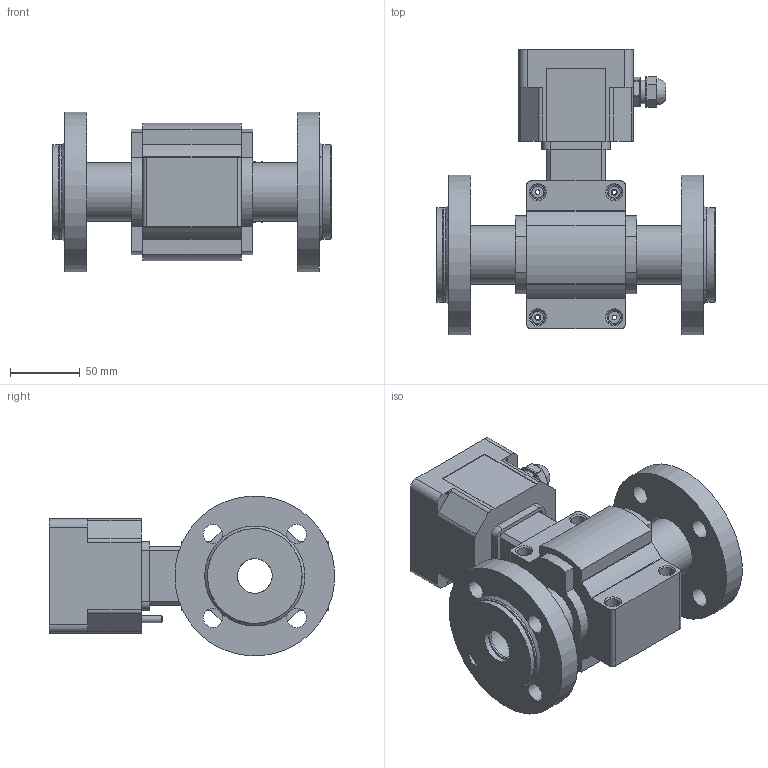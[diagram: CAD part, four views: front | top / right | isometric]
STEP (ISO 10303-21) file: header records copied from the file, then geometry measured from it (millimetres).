
FILE_DESCRIPTION(/* description */ (''),/* implementation_level */ '2;1');
FILE_NAME(/* name */ 'D:\ТЭК\01 Михайлычев\ПРЭМ\Модели для сайта\Квадратное исполение блока\100F\Workspaces\Рабочее пространство\25F\ПРЭМ-25F.stp',/* time_stamp */ '2022-06-21T11:32:39+03:00',/* author */ ('d.mihailichev'),/* organization */ (''),/* preprocessor_version */ 'ST-DEVELOPER v18.1',/* originating_system */ 'Autodesk Inventor 2020',/* authorisation */ '');
FILE_SCHEMA (('AUTOMOTIVE_DESIGN { 1 0 10303 214 3 1 1 }'));
Products named in the file (1): ПРЭМ-25F
Bounding box: 200 x 204.78 x 114.56 mm (x, y, z)
Volume: 716573.9 mm3; surface area: 288266.8 mm2
Topology: 7 solids, 21 shells, 2653 faces, 7102 edges, 4594 vertices
Faces by surface type: plane 1569, cylinder 512, bspline 449, sphere 60, cone 45, torus 18
Full cylindrical faces by diameter (mm): 0.431 x1, 0.546 x1, 1.159 x2, 1.5 x2, 1.7 x4, 1.8 x4, 2.5 x8, 3 x1, 3.242 x12, 3.5 x4, 4 x4, 4.5 x8, 4.7 x4, 4.9 x4, 5 x1, 5.472 x1, 5.5 x7, 7 x4, 7.5 x4, 8.5 x12, 10.3 x8, 11 x8, 12 x2, 13 x2, 14 x8, 15 x1, 17 x6, 19.094 x2, 20.5 x1, 25 x3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
Entity records: 91378 total; most frequent: CARTESIAN_POINT 24903, ORIENTED_EDGE 14008, DIRECTION 11789, EDGE_CURVE 7008, LINE 4669, VECTOR 4669, VERTEX_POINT 4594, AXIS2_PLACEMENT_3D 3560
